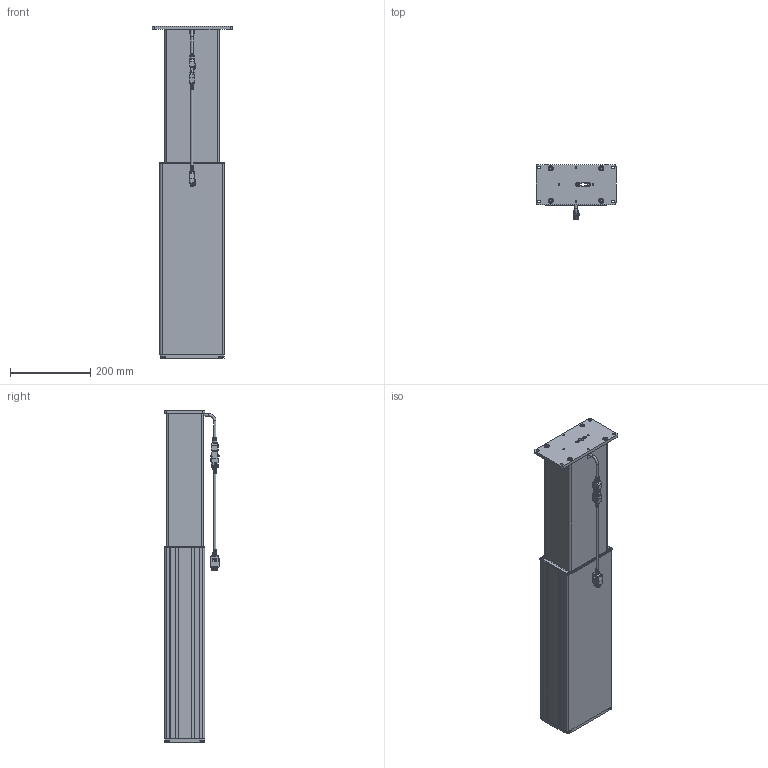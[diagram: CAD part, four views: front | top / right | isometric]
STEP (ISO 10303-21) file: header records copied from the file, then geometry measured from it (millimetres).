
FILE_DESCRIPTION(/* description */ ('Unknown'),/* implementation_level */ '2;1');
FILE_NAME(/* name */ '911.00103_00-ausgefahren',/* time_stamp */ '2024-04-08T01:16:42+02:00',/* author */ ('Unknown'),/* organization */ ('Unknown'),/* preprocessor_version */ 'ST-DEVELOPER v18.104',/* originating_system */ 'Solid Edge',/* authorisation */ 'Unknown');
FILE_SCHEMA (('AUTOMOTIVE_DESIGN {1 0 10303 214 3 1 1}'));
Products named in the file (16): 911.00103; 126.00191; 119.00580; 119.00579; 126.00193; 124.00201_oa_0; 115.00200_oa_1; 110.00113_oa_2; 142.00303; 142.00241; 142.00154; 142.00039; 128.00078; Kabel Motor Sx; 119.00578; 124.00151
Assembly tree (25 placements, depth 2):
  911.00103
    126.00191
    119.00580  x2
    119.00579  x2
    126.00193
    124.00201_oa_0
    115.00200_oa_1
    110.00113_oa_2
    142.00303  x4
    142.00241  x2
    142.00154  x4
    142.00039  x2
    128.00078
    Kabel Motor Sx
    119.00578
    124.00151
Bounding box: 200 x 137.17 x 830 mm (x, y, z)
Volume: 2396554.1 mm3; surface area: 1276244.6 mm2
Topology: 22 solids, 22 shells, 1711 faces, 4482 edges, 2937 vertices
Faces by surface type: plane 1031, cylinder 466, torus 109, bspline 72, cone 27, sphere 6
Full cylindrical faces by diameter (mm): 1.5 x6, 1.82 x6, 2 x4, 2.7 x6, 4 x2, 4.917 x4, 5 x3, 5.5 x2, 6 x11, 6.2 x4, 6.5 x4, 6.6 x4, 6.647 x4, 7 x2, 10 x2, 12 x4, 21 x1
Entity records: 58188 total; most frequent: CARTESIAN_POINT 11692, ORIENTED_EDGE 7804, DIRECTION 7768, EDGE_CURVE 3902, AXIS2_PLACEMENT_3D 2648, VERTEX_POINT 2612, LINE 2472, VECTOR 2472
